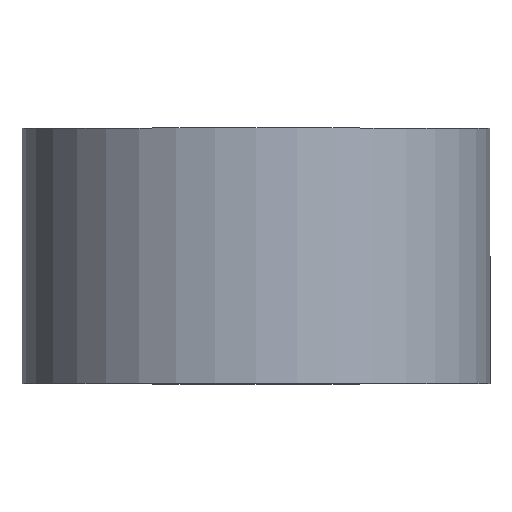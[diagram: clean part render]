
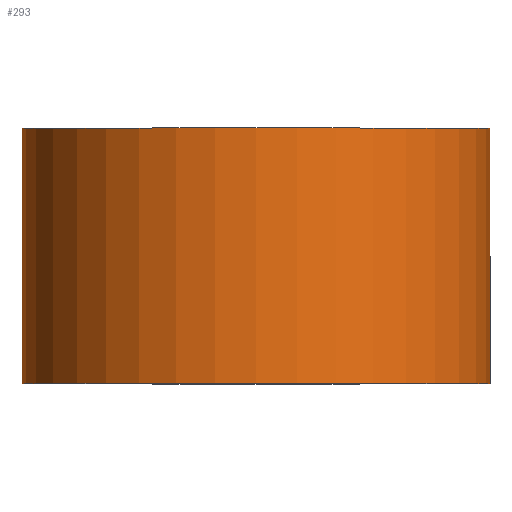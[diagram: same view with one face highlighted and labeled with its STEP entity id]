
A CAD part, top view. The second image highlights one B-rep face of the part: STEP entity #293.
In plain terms, the highlighted cylindrical face has radius 27.5 mm (diameter 55 mm), a partial arc.
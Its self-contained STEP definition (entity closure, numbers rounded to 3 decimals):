
#1 = VERTEX_POINT ( 'NONE', #51 ) ;
#4 = CARTESIAN_POINT ( 'NONE',  ( 27.5, 30., 0. ) ) ;
#26 = CARTESIAN_POINT ( 'NONE',  ( 27.5, 0., 0. ) ) ;
#30 = CARTESIAN_POINT ( 'NONE',  ( 0., 0., 0. ) ) ;
#44 = ORIENTED_EDGE ( 'NONE', *, *, #76, .F. ) ;
#51 = CARTESIAN_POINT ( 'NONE',  ( -27.5, 0., 0. ) ) ;
#54 = CARTESIAN_POINT ( 'NONE',  ( 0., 30., 0. ) ) ;
#60 = VERTEX_POINT ( 'NONE', #26 ) ;
#64 = CARTESIAN_POINT ( 'NONE',  ( 0., 0., 0. ) ) ;
#76 = EDGE_CURVE ( 'NONE', #216, #212, #110, .T. ) ;
#80 = CIRCLE ( 'NONE', #276, 27.5 ) ;
#82 = EDGE_CURVE ( 'NONE', #1, #60, #80, .T. ) ;
#93 = VECTOR ( 'NONE', #194, 1000. ) ;
#100 = LINE ( 'NONE', #289, #281 ) ;
#110 = CIRCLE ( 'NONE', #233, 27.5 ) ;
#142 = AXIS2_PLACEMENT_3D ( 'NONE', #64, #249, #155 ) ;
#148 = LINE ( 'NONE', #158, #93 ) ;
#155 = DIRECTION ( 'NONE',  ( -1., 0., 0. ) ) ;
#158 = CARTESIAN_POINT ( 'NONE',  ( -27.5, 0., 0. ) ) ;
#161 = EDGE_CURVE ( 'NONE', #60, #212, #100, .T. ) ;
#169 = CARTESIAN_POINT ( 'NONE',  ( -27.5, 30., 0. ) ) ;
#180 = EDGE_LOOP ( 'NONE', ( #206, #229, #44, #181 ) ) ;
#181 = ORIENTED_EDGE ( 'NONE', *, *, #257, .F. ) ;
#186 = DIRECTION ( 'NONE',  ( -1., 0., 0. ) ) ;
#190 = DIRECTION ( 'NONE',  ( 0., 1., 0. ) ) ;
#194 = DIRECTION ( 'NONE',  ( 0., 1., 0. ) ) ;
#200 = CYLINDRICAL_SURFACE ( 'NONE', #142, 27.5 ) ;
#205 = FACE_OUTER_BOUND ( 'NONE', #180, .T. ) ;
#206 = ORIENTED_EDGE ( 'NONE', *, *, #82, .T. ) ;
#209 = DIRECTION ( 'NONE',  ( 0., 1., 0. ) ) ;
#210 = DIRECTION ( 'NONE',  ( 0., 1., 0. ) ) ;
#212 = VERTEX_POINT ( 'NONE', #4 ) ;
#216 = VERTEX_POINT ( 'NONE', #169 ) ;
#229 = ORIENTED_EDGE ( 'NONE', *, *, #161, .T. ) ;
#233 = AXIS2_PLACEMENT_3D ( 'NONE', #54, #210, #235 ) ;
#235 = DIRECTION ( 'NONE',  ( -1., 0., 0. ) ) ;
#249 = DIRECTION ( 'NONE',  ( 0., 1., 0. ) ) ;
#257 = EDGE_CURVE ( 'NONE', #1, #216, #148, .T. ) ;
#276 = AXIS2_PLACEMENT_3D ( 'NONE', #30, #209, #186 ) ;
#281 = VECTOR ( 'NONE', #190, 1000. ) ;
#289 = CARTESIAN_POINT ( 'NONE',  ( 27.5, 0., 0. ) ) ;
#293 = ADVANCED_FACE ( 'NONE', ( #205 ), #200, .T. ) ;
